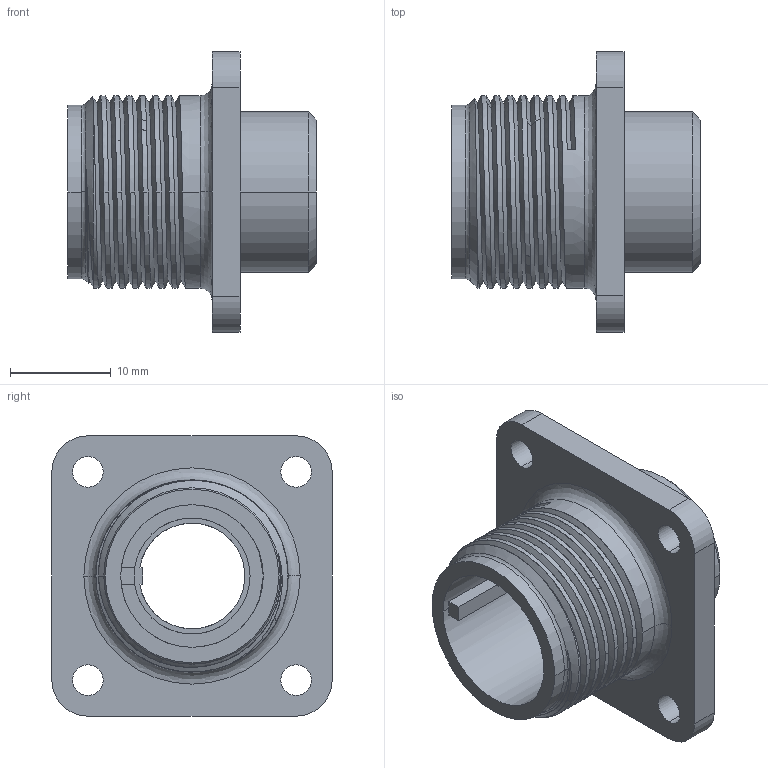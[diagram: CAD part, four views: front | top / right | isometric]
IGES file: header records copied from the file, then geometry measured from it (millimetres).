
Start section:  PTC IGES file: ms3102_12_shell.igs
Global section: file name: ms3102_12_shell.igs; native system: Creo Parametric by PTC Inc.; preprocessor: 2015290; author: j_piao; organization: Unknown; date: 20170623.144011; units: inch
Bounding box: 24.61 x 27.79 x 27.79 mm (x, y, z)
Surface area: 4186.3 mm2 (no closed solid volume)
Topology: 0 solids, 0 shells, 74 faces, 378 edges, 378 vertices
Faces by surface type: revolution 48, bspline 26
